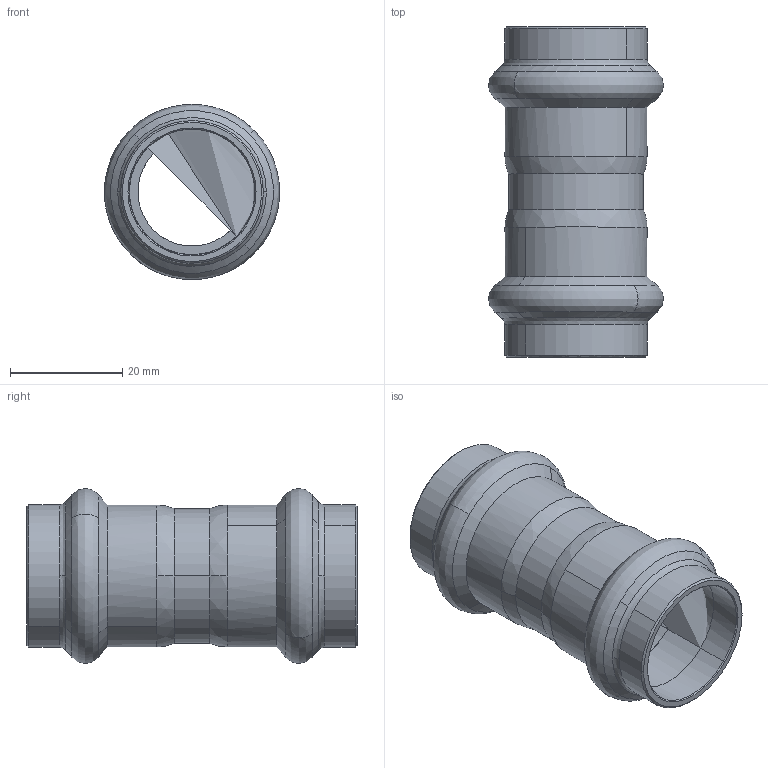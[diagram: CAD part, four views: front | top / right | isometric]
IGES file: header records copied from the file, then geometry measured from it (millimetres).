
Start section: Elysium IGES Interface
Global section: file name: C:\Users\Wallenburg\Desktop\3d modellen sudo\S-Pr VP\SP6270V\6270VW22.igs; native system: CoCreate Modeling 17.00A  17-Jun-2010; preprocessor: CoCreate IGES_3D V2.2; author: Unknown; organization: Unknown; date: 20130110.092726; units: millimetre
Bounding box: 31.19 x 58.81 x 31.18 mm (x, y, z)
Surface area: 9897.5 mm2 (no closed solid volume)
Topology: 0 solids, 1 shells, 74 faces, 185 edges, 115 vertices
Faces by surface type: bspline 74
